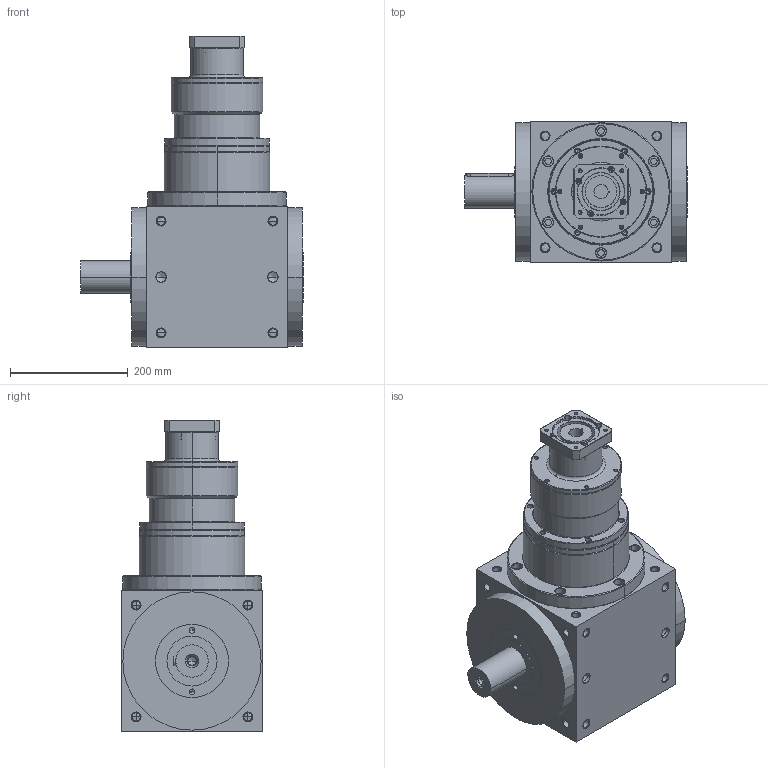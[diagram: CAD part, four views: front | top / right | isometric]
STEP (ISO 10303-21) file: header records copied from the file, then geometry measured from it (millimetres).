
FILE_DESCRIPTION((''),'2;1');
FILE_NAME('ATB240FL13-P0405300303_ASM','2014-07-30T',('d01707'),(''),'PRO/ENGINEER BY PARAMETRIC TECHNOLOGY CORPORATION, 2008410','PRO/ENGINEER BY PARAMETRIC TECHNOLOGY CORPORATION, 2008410','');
FILE_SCHEMA(('CONFIG_CONTROL_DESIGN'));
Length unit declared in the file: millimetre
Products named in the file (6): ATBFL1-HOUSING-3-9; P1820900001; P0226900002; P0227900001; P0405300303; ATB240FL13-P0405300303_ASM
Assembly tree (5 placements, depth 2):
  ATB240FL13-P0405300303_ASM
    ATBFL1-HOUSING-3-9
    P1820900001
    P0226900002
    P0227900001
    P0405300303
Bounding box: 379 x 240 x 529 mm (x, y, z)
Volume: 19180796.7 mm3; surface area: 924331.2 mm2
Topology: 5 solids, 50 shells, 955 faces, 2311 edges, 1358 vertices
Faces by surface type: cylinder 404, cone 342, plane 127, torus 66, bspline 16
Entity records: 28810 total; most frequent: CARTESIAN_POINT 6427, DIRECTION 5061, ORIENTED_EDGE 4226, EDGE_CURVE 2203, AXIS2_PLACEMENT_3D 2120, VERTEX_POINT 1358, CIRCLE 1160, EDGE_LOOP 1141
